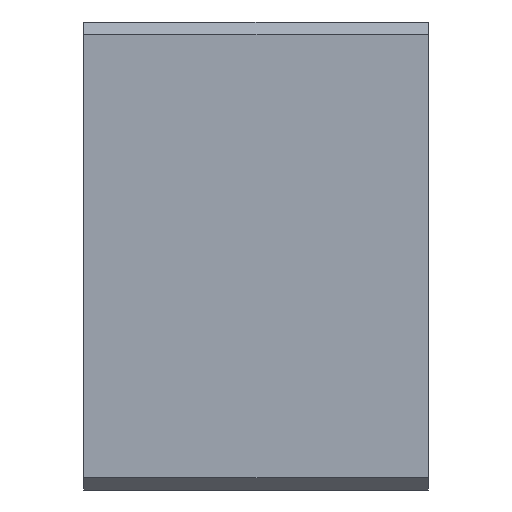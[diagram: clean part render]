
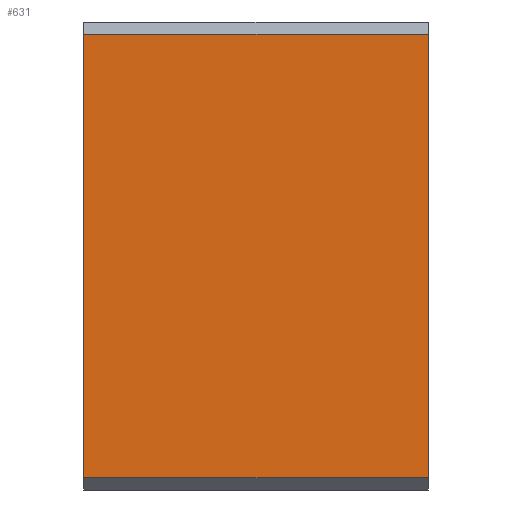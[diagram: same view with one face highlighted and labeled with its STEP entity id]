
A CAD part, left-side view. The second image highlights one B-rep face of the part: STEP entity #631.
In plain terms, the highlighted planar face has unit normal (-1, 0, 0).
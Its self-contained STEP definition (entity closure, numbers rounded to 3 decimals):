
#31 = DIRECTION ( 'NONE',  ( 1., 0., 0. ) ) ;
#40 = VECTOR ( 'NONE', #588, 1000. ) ;
#94 = EDGE_CURVE ( 'NONE', #652, #651, #207, .T. ) ;
#119 = EDGE_LOOP ( 'NONE', ( #345, #828, #700, #661 ) ) ;
#128 = DIRECTION ( 'NONE',  ( 0., 0., -1. ) ) ;
#137 = CARTESIAN_POINT ( 'NONE',  ( -14., 7., 18.5 ) ) ;
#140 = CARTESIAN_POINT ( 'NONE',  ( -14., 7., 0.5 ) ) ;
#174 = LINE ( 'NONE', #246, #751 ) ;
#179 = DIRECTION ( 'NONE',  ( 0., 0., -1. ) ) ;
#196 = VERTEX_POINT ( 'NONE', #268 ) ;
#205 = EDGE_CURVE ( 'NONE', #403, #651, #465, .T. ) ;
#207 = LINE ( 'NONE', #349, #388 ) ;
#246 = CARTESIAN_POINT ( 'NONE',  ( -14., -7., 9.5 ) ) ;
#247 = VECTOR ( 'NONE', #702, 1000. ) ;
#266 = CARTESIAN_POINT ( 'NONE',  ( -14., 0., 0.5 ) ) ;
#268 = CARTESIAN_POINT ( 'NONE',  ( -14., -7., 18.5 ) ) ;
#321 = AXIS2_PLACEMENT_3D ( 'NONE', #382, #31, #128 ) ;
#331 = DIRECTION ( 'NONE',  ( 0., 0., 1. ) ) ;
#332 = EDGE_CURVE ( 'NONE', #652, #196, #564, .T. ) ;
#345 = ORIENTED_EDGE ( 'NONE', *, *, #792, .T. ) ;
#349 = CARTESIAN_POINT ( 'NONE',  ( -14., 7., 9.5 ) ) ;
#354 = FACE_OUTER_BOUND ( 'NONE', #119, .T. ) ;
#382 = CARTESIAN_POINT ( 'NONE',  ( -14., -7., 18.5 ) ) ;
#388 = VECTOR ( 'NONE', #179, 1000. ) ;
#403 = VERTEX_POINT ( 'NONE', #640 ) ;
#465 = LINE ( 'NONE', #266, #247 ) ;
#520 = PLANE ( 'NONE',  #321 ) ;
#564 = LINE ( 'NONE', #592, #40 ) ;
#588 = DIRECTION ( 'NONE',  ( 0., -1., 0. ) ) ;
#592 = CARTESIAN_POINT ( 'NONE',  ( -14., 0., 18.5 ) ) ;
#631 = ADVANCED_FACE ( 'NONE', ( #354 ), #520, .F. ) ;
#640 = CARTESIAN_POINT ( 'NONE',  ( -14., -7., 0.5 ) ) ;
#651 = VERTEX_POINT ( 'NONE', #140 ) ;
#652 = VERTEX_POINT ( 'NONE', #137 ) ;
#661 = ORIENTED_EDGE ( 'NONE', *, *, #205, .F. ) ;
#700 = ORIENTED_EDGE ( 'NONE', *, *, #94, .T. ) ;
#702 = DIRECTION ( 'NONE',  ( 0., 1., 0. ) ) ;
#751 = VECTOR ( 'NONE', #331, 1000. ) ;
#792 = EDGE_CURVE ( 'NONE', #403, #196, #174, .T. ) ;
#828 = ORIENTED_EDGE ( 'NONE', *, *, #332, .F. ) ;
